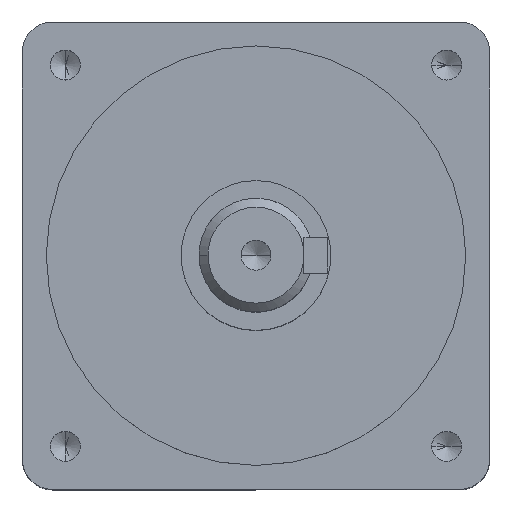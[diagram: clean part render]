
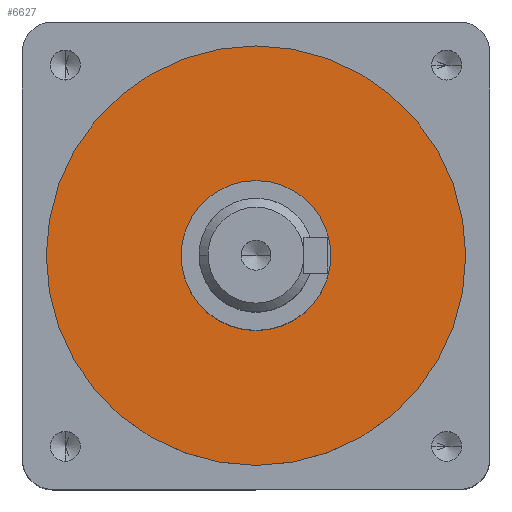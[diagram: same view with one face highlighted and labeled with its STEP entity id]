
A CAD part, top view. The second image highlights one B-rep face of the part: STEP entity #6627.
In plain terms, the highlighted planar face has unit normal (0, 0, 1).
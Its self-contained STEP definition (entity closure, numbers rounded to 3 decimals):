
#681 = EDGE_CURVE ( 'NONE', #9510, #17866, #26759, .T. ) ;
#1303 = FACE_BOUND ( 'NONE', #6180, .T. ) ;
#1729 = DIRECTION ( 'NONE',  ( -1., 0., 0. ) ) ;
#2461 = DIRECTION ( 'NONE',  ( 0., 0., 1. ) ) ;
#3924 = AXIS2_PLACEMENT_3D ( 'NONE', #12153, #29860, #14690 ) ;
#5213 = EDGE_CURVE ( 'NONE', #11445, #17437, #18052, .T. ) ;
#6180 = EDGE_LOOP ( 'NONE', ( #25055, #19881 ) ) ;
#6627 = ADVANCED_FACE ( 'NONE', ( #1303, #14673 ), #25128, .T. ) ;
#9293 = AXIS2_PLACEMENT_3D ( 'NONE', #31628, #18562, #32452 ) ;
#9510 = VERTEX_POINT ( 'NONE', #14026 ) ;
#9518 = DIRECTION ( 'NONE',  ( 0., 0., -1. ) ) ;
#9683 = EDGE_CURVE ( 'NONE', #17866, #9510, #14231, .T. ) ;
#11445 = VERTEX_POINT ( 'NONE', #17563 ) ;
#12153 = CARTESIAN_POINT ( 'NONE',  ( 0., 0., 3. ) ) ;
#13188 = ORIENTED_EDGE ( 'NONE', *, *, #681, .F. ) ;
#14026 = CARTESIAN_POINT ( 'NONE',  ( 35., 0., 3. ) ) ;
#14231 = CIRCLE ( 'NONE', #3924, 35. ) ;
#14673 = FACE_OUTER_BOUND ( 'NONE', #17961, .T. ) ;
#14690 = DIRECTION ( 'NONE',  ( -1., 0., 0. ) ) ;
#16765 = DIRECTION ( 'NONE',  ( 0., 0., -1. ) ) ;
#17437 = VERTEX_POINT ( 'NONE', #30415 ) ;
#17563 = CARTESIAN_POINT ( 'NONE',  ( -12.5, 0., 3. ) ) ;
#17866 = VERTEX_POINT ( 'NONE', #32453 ) ;
#17961 = EDGE_LOOP ( 'NONE', ( #27936, #13188 ) ) ;
#18052 = CIRCLE ( 'NONE', #26641, 12.5 ) ;
#18562 = DIRECTION ( 'NONE',  ( 0., 0., -1. ) ) ;
#19881 = ORIENTED_EDGE ( 'NONE', *, *, #20534, .T. ) ;
#20056 = DIRECTION ( 'NONE',  ( 1., 0., 0. ) ) ;
#20534 = EDGE_CURVE ( 'NONE', #17437, #11445, #22346, .T. ) ;
#22059 = AXIS2_PLACEMENT_3D ( 'NONE', #30148, #2461, #20056 ) ;
#22346 = CIRCLE ( 'NONE', #29344, 12.5 ) ;
#24719 = CARTESIAN_POINT ( 'NONE',  ( 0., 0., 3. ) ) ;
#25055 = ORIENTED_EDGE ( 'NONE', *, *, #5213, .T. ) ;
#25128 = PLANE ( 'NONE',  #22059 ) ;
#26641 = AXIS2_PLACEMENT_3D ( 'NONE', #31977, #16765, #1729 ) ;
#26759 = CIRCLE ( 'NONE', #9293, 35. ) ;
#27212 = DIRECTION ( 'NONE',  ( -1., 0., 0. ) ) ;
#27936 = ORIENTED_EDGE ( 'NONE', *, *, #9683, .F. ) ;
#29344 = AXIS2_PLACEMENT_3D ( 'NONE', #24719, #9518, #27212 ) ;
#29860 = DIRECTION ( 'NONE',  ( 0., 0., -1. ) ) ;
#30148 = CARTESIAN_POINT ( 'NONE',  ( 0., 0., 3. ) ) ;
#30415 = CARTESIAN_POINT ( 'NONE',  ( 12.5, 0., 3. ) ) ;
#31628 = CARTESIAN_POINT ( 'NONE',  ( 0., 0., 3. ) ) ;
#31977 = CARTESIAN_POINT ( 'NONE',  ( 0., 0., 3. ) ) ;
#32452 = DIRECTION ( 'NONE',  ( -1., 0., 0. ) ) ;
#32453 = CARTESIAN_POINT ( 'NONE',  ( -35., 0., 3. ) ) ;
